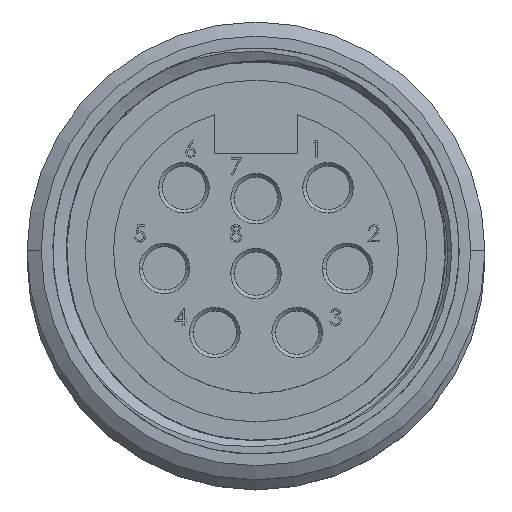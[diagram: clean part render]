
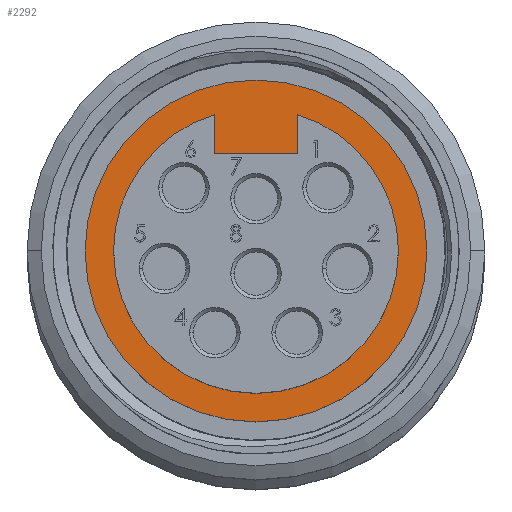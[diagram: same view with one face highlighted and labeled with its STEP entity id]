
A CAD part, top view. The second image highlights one B-rep face of the part: STEP entity #2292.
In plain terms, the highlighted planar face has unit normal (0, 0, 1).
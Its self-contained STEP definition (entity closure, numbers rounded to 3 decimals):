
#2292 = ADVANCED_FACE ( 'NONE', ( #26298, #26341 ), #26342, .F. ) ;
#6158 = EDGE_CURVE ( 'NONE', #22658, #23031, #23458, .T. ) ;
#9334 = CARTESIAN_POINT ( 'NONE',  ( 74.843, 61.175, 231.503 ) ) ;
#9371 = CARTESIAN_POINT ( 'NONE',  ( 69.636, 58.771, 231.503 ) ) ;
#11027 = CARTESIAN_POINT ( 'NONE',  ( 82.907, 52.675, 231.503 ) ) ;
#11047 = CARTESIAN_POINT ( 'NONE',  ( 63.349, 52.675, 231.503 ) ) ;
#11079 = CARTESIAN_POINT ( 'NONE',  ( 81.129, 52.675, 231.503 ) ) ;
#11091 = CARTESIAN_POINT ( 'NONE',  ( 74.843, 58.771, 231.503 ) ) ;
#11103 = CARTESIAN_POINT ( 'NONE',  ( 61.571, 52.675, 231.503 ) ) ;
#11254 = CARTESIAN_POINT ( 'NONE',  ( 69.636, 61.175, 231.503 ) ) ;
#11784 = LINE ( 'NONE', #11785, #17072 ) ;
#11785 = CARTESIAN_POINT ( 'NONE',  ( 69.636, 58.771, 231.503 ) ) ;
#11786 = CARTESIAN_POINT ( 'NONE',  ( 72.239, 52.675, 231.503 ) ) ;
#11787 = DIRECTION ( 'NONE',  ( 0., 0., 1. ) ) ;
#11788 = DIRECTION ( 'NONE',  ( 1., 0., 0. ) ) ;
#11820 = DIRECTION ( 'NONE',  ( 1., 0., 0. ) ) ;
#11837 = CARTESIAN_POINT ( 'NONE',  ( 72.239, 52.675, 231.503 ) ) ;
#11838 = DIRECTION ( 'NONE',  ( 0., 0., 1. ) ) ;
#11839 = DIRECTION ( 'NONE',  ( 1., 0., 0. ) ) ;
#12718 = CARTESIAN_POINT ( 'NONE',  ( 72.239, 52.675, 231.503 ) ) ;
#12719 = DIRECTION ( 'NONE',  ( 0., 0., 1. ) ) ;
#12720 = DIRECTION ( 'NONE',  ( 1., 0., 0. ) ) ;
#13052 = LINE ( 'NONE', #13053, #16934 ) ;
#13053 = CARTESIAN_POINT ( 'NONE',  ( 74.843, 61.175, 231.503 ) ) ;
#13054 = DIRECTION ( 'NONE',  ( 0., 1., 0. ) ) ;
#15127 = CARTESIAN_POINT ( 'NONE',  ( 72.239, 52.675, 231.503 ) ) ;
#15128 = DIRECTION ( 'NONE',  ( 0., 0., 1. ) ) ;
#15129 = DIRECTION ( 'NONE',  ( 1., 0., 0. ) ) ;
#15155 = CARTESIAN_POINT ( 'NONE',  ( 69.636, 61.175, 231.503 ) ) ;
#15156 = LINE ( 'NONE', #15155, #16783 ) ;
#15176 = DIRECTION ( 'NONE',  ( 0., -1., 0. ) ) ;
#15653 = ORIENTED_EDGE ( 'NONE', *, *, #18098, .F. ) ;
#15655 = ORIENTED_EDGE ( 'NONE', *, *, #17770, .T. ) ;
#15657 = ORIENTED_EDGE ( 'NONE', *, *, #18092, .T. ) ;
#15659 = ORIENTED_EDGE ( 'NONE', *, *, #17937, .T. ) ;
#15661 = ORIENTED_EDGE ( 'NONE', *, *, #6158, .F. ) ;
#15663 = ORIENTED_EDGE ( 'NONE', *, *, #17830, .F. ) ;
#15665 = ORIENTED_EDGE ( 'NONE', *, *, #18085, .T. ) ;
#15667 = ORIENTED_EDGE ( 'NONE', *, *, #17762, .T. ) ;
#16775 = CIRCLE ( 'NONE', #16777, 10.668 ) ;
#16777 = AXIS2_PLACEMENT_3D ( 'NONE', #15127, #15128, #15129 ) ;
#16783 = VECTOR ( 'NONE', #15176, 1000. ) ;
#16855 = CIRCLE ( 'NONE', #16858, 8.89 ) ;
#16858 = AXIS2_PLACEMENT_3D ( 'NONE', #12718, #12719, #12720 ) ;
#16934 = VECTOR ( 'NONE', #13054, 1000. ) ;
#17065 = CIRCLE ( 'NONE', #17066, 10.668 ) ;
#17066 = AXIS2_PLACEMENT_3D ( 'NONE', #11786, #11787, #11788 ) ;
#17072 = VECTOR ( 'NONE', #11820, 1000. ) ;
#17080 = CIRCLE ( 'NONE', #17082, 8.89 ) ;
#17082 = AXIS2_PLACEMENT_3D ( 'NONE', #11837, #11838, #11839 ) ;
#17762 = EDGE_CURVE ( 'NONE', #22682, #22609, #16775, .T. ) ;
#17770 = EDGE_CURVE ( 'NONE', #22836, #23093, #15156, .T. ) ;
#17830 = EDGE_CURVE ( 'NONE', #22628, #22658, #16855, .T. ) ;
#17937 = EDGE_CURVE ( 'NONE', #22670, #23031, #13052, .T. ) ;
#18085 = EDGE_CURVE ( 'NONE', #22609, #22682, #17065, .T. ) ;
#18092 = EDGE_CURVE ( 'NONE', #23093, #22670, #11784, .T. ) ;
#18098 = EDGE_CURVE ( 'NONE', #22836, #22628, #17080, .T. ) ;
#22609 = VERTEX_POINT ( 'NONE', #11027 ) ;
#22628 = VERTEX_POINT ( 'NONE', #11047 ) ;
#22658 = VERTEX_POINT ( 'NONE', #11079 ) ;
#22670 = VERTEX_POINT ( 'NONE', #11091 ) ;
#22682 = VERTEX_POINT ( 'NONE', #11103 ) ;
#22836 = VERTEX_POINT ( 'NONE', #11254 ) ;
#23031 = VERTEX_POINT ( 'NONE', #9334 ) ;
#23093 = VERTEX_POINT ( 'NONE', #9371 ) ;
#23457 = AXIS2_PLACEMENT_3D ( 'NONE', #30334, #30335, #30336 ) ;
#23458 = CIRCLE ( 'NONE', #23457, 8.89 ) ;
#26028 = AXIS2_PLACEMENT_3D ( 'NONE', #26351, #26352, #26353 ) ;
#26298 = FACE_BOUND ( 'NONE', #32394, .T. ) ;
#26341 = FACE_OUTER_BOUND ( 'NONE', #32385, .T. ) ;
#26342 = PLANE ( 'NONE',  #26028 ) ;
#26351 = CARTESIAN_POINT ( 'NONE',  ( 72.239, 61.565, 231.503 ) ) ;
#26352 = DIRECTION ( 'NONE',  ( 0., 0., -1. ) ) ;
#26353 = DIRECTION ( 'NONE',  ( -1., 0., 0. ) ) ;
#30334 = CARTESIAN_POINT ( 'NONE',  ( 72.239, 52.675, 231.503 ) ) ;
#30335 = DIRECTION ( 'NONE',  ( 0., 0., 1. ) ) ;
#30336 = DIRECTION ( 'NONE',  ( 1., 0., 0. ) ) ;
#32385 = EDGE_LOOP ( 'NONE', ( #15665, #15667 ) ) ;
#32394 = EDGE_LOOP ( 'NONE', ( #15653, #15655, #15657, #15659, #15661, #15663 ) ) ;
